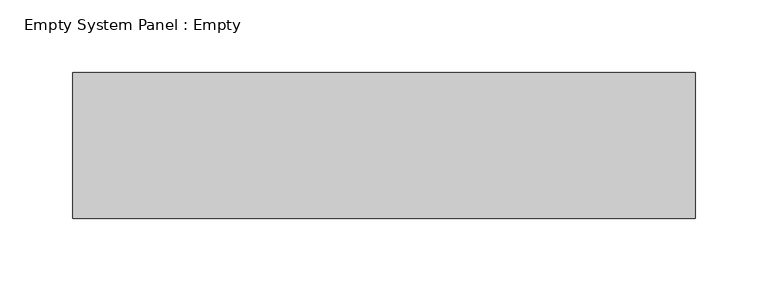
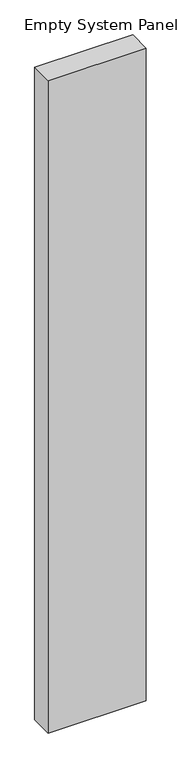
"""IFC4 building model written with IfcOpenShell, lengths in millimetres: plate geometry, Empty System Panel : Empty."""

from ifc_helpers import new_model, si_unit, origin, origin_with_axes, place, context, project, spatial, polyline, outline, extrude, source, transform, mapped, element, save


def empty_system_panel_empty_92263b80(model_context):
    return source(origin(), model_context, "Body", "SweptSolid", [
        extrude(outline(polyline([(213.609127, -50.0), (-213.609127, -50.0), (-213.609127, 50.0), (213.609127, 50.0), (213.609127, -50.0)])), origin_with_axes(), (0.0, 0.0, 1.0), 3000.0),
    ])


if __name__ == "__main__":
    model = new_model("IFC4")
    model_context = context("Model", 3, world=origin())
    ifc_project = project(units=[si_unit("LENGTHUNIT", "METRE", prefix="MILLI")], contexts=[model_context])
    site = spatial("IfcSite", under=ifc_project)
    building = spatial("IfcBuilding", under=site)
    placement = place(None, origin())
    empty_system_panel_empty_shape = empty_system_panel_empty_92263b80(model_context)
    element("IfcPlate", 1, ObjectType="Empty System Panel : Empty", at=placement, inside=building, context=model_context, shape_type="MappedRepresentation", body=[
        mapped(empty_system_panel_empty_shape, transform((0.0, 0.0, 0.0), x_axis=(1.0, 0.0, 0.0), y_axis=(0.0, 1.0, 0.0), z_axis=(0.0, 0.0, 1.0))),
    ])
    save(model, "model.ifc")
